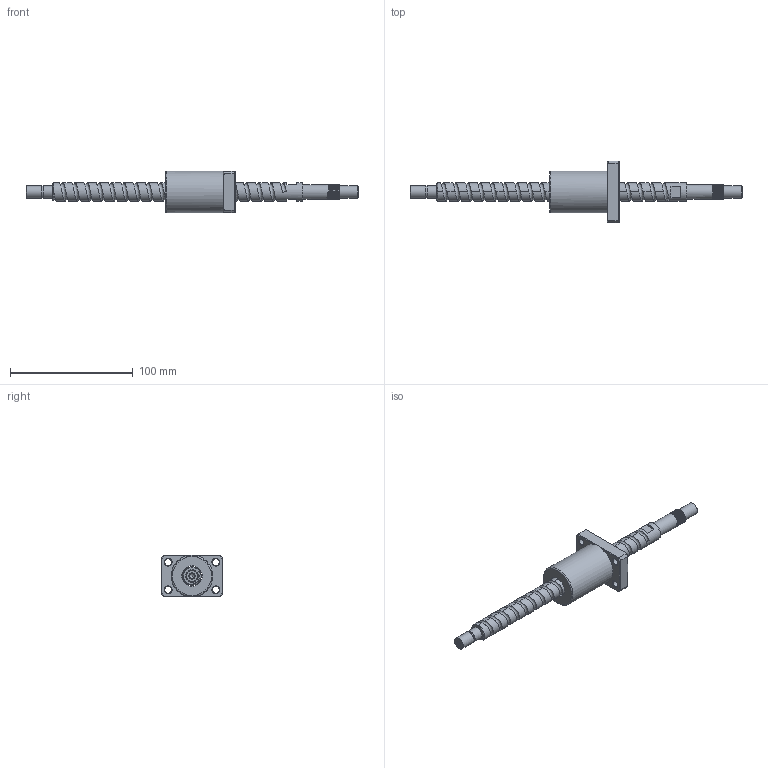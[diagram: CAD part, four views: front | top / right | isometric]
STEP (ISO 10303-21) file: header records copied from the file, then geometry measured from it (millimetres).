
FILE_DESCRIPTION (( 'STEP AP203' ), '1' );
FILE_NAME ('XSVR01510B1DGC5-271-P1.step', '2024-06-03T05:10:09', ( '' ), ( '' ), 'SwSTEP 2.0', 'SolidWorks 2022', '' );
FILE_SCHEMA (( 'CONFIG_CONTROL_DESIGN' ));
Length unit declared in the file: millimetre
Products named in the file (1): XSVR01510B1DGC5-271-P1
Bounding box: 271 x 50 x 34 mm (x, y, z)
Volume: 83951.8 mm3; surface area: 26942.4 mm2
Topology: 2 solids, 2 shells, 149 faces, 395 edges, 256 vertices
Faces by surface type: cylinder 72, plane 43, cone 15, bspline 10, torus 9
Full cylindrical faces by diameter (mm): 4 x1, 4.2 x15, 5 x6, 5.5 x4, 9.5 x4, 9.6 x1, 10 x3, 12 x9, 15 x19, 16.7 x1, 34 x1
Entity records: 13948 total; most frequent: CARTESIAN_POINT 11824, ORIENTED_EDGE 402, DIRECTION 391, EDGE_CURVE 201, AXIS2_PLACEMENT_3D 168, EDGE_LOOP 153, VERTEX_POINT 146, FACE_OUTER_BOUND 120
